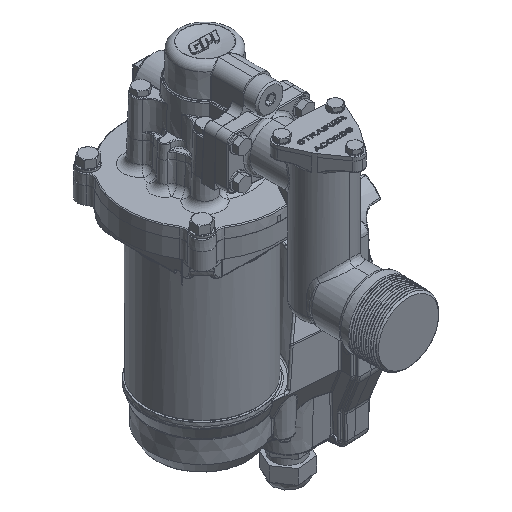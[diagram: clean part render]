
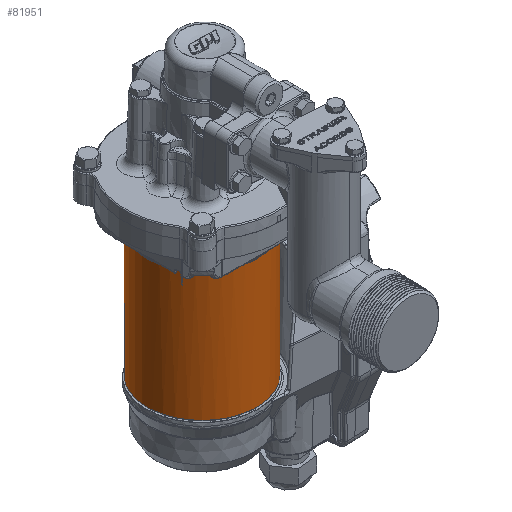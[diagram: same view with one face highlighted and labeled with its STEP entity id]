
A CAD part, isometric view. The second image highlights one B-rep face of the part: STEP entity #81951.
In plain terms, the highlighted cylindrical face has radius 50.8 mm (diameter 101.6 mm), a full revolution.
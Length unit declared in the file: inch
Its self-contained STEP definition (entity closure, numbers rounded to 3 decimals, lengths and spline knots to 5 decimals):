
#4697=CYLINDRICAL_SURFACE('',#87857,2.);
#8989=FACE_OUTER_BOUND('',#13736,.T.);
#13736=EDGE_LOOP('',(#70422,#70423,#70424,#70425,#70426,#70427,#70428,#70429,
#70430,#70431,#70432,#70433,#70434,#70435));
#16517=CIRCLE('',#87858,2.);
#16518=CIRCLE('',#87859,2.);
#16519=CIRCLE('',#87860,2.);
#16520=CIRCLE('',#87861,2.);
#16521=CIRCLE('',#87862,2.);
#16522=CIRCLE('',#87863,2.);
#16523=CIRCLE('',#87864,2.);
#16524=CIRCLE('',#87865,2.);
#24658=LINE('',#171138,#30420);
#24659=LINE('',#171144,#30421);
#24660=LINE('',#171148,#30422);
#24661=LINE('',#171152,#30423);
#24662=LINE('',#171159,#30424);
#30420=VECTOR('',#104083,0.3937);
#30421=VECTOR('',#104088,2.);
#30422=VECTOR('',#104091,0.3937);
#30423=VECTOR('',#104094,0.3937);
#30424=VECTOR('',#104101,0.3937);
#37596=VERTEX_POINT('',#171136);
#37597=VERTEX_POINT('',#171137);
#37598=VERTEX_POINT('',#171139);
#37599=VERTEX_POINT('',#171141);
#37600=VERTEX_POINT('',#171143);
#37601=VERTEX_POINT('',#171145);
#37602=VERTEX_POINT('',#171147);
#37603=VERTEX_POINT('',#171149);
#37604=VERTEX_POINT('',#171151);
#37605=VERTEX_POINT('',#171153);
#37606=VERTEX_POINT('',#171156);
#37607=VERTEX_POINT('',#171158);
#48696=EDGE_CURVE('',#37596,#37597,#24658,.T.);
#48697=EDGE_CURVE('',#37598,#37597,#16517,.T.);
#48698=EDGE_CURVE('',#37599,#37598,#16518,.T.);
#48699=EDGE_CURVE('',#37599,#37600,#24659,.T.);
#48700=EDGE_CURVE('',#37601,#37600,#16519,.T.);
#48701=EDGE_CURVE('',#37601,#37602,#24660,.T.);
#48702=EDGE_CURVE('',#37602,#37603,#16520,.T.);
#48703=EDGE_CURVE('',#37603,#37604,#24661,.T.);
#48704=EDGE_CURVE('',#37605,#37604,#16521,.T.);
#48705=EDGE_CURVE('',#37600,#37605,#16522,.T.);
#48706=EDGE_CURVE('',#37606,#37599,#16523,.T.);
#48707=EDGE_CURVE('',#37606,#37607,#24662,.T.);
#48708=EDGE_CURVE('',#37607,#37596,#16524,.T.);
#70422=ORIENTED_EDGE('',*,*,#48696,.T.);
#70423=ORIENTED_EDGE('',*,*,#48697,.F.);
#70424=ORIENTED_EDGE('',*,*,#48698,.F.);
#70425=ORIENTED_EDGE('',*,*,#48699,.T.);
#70426=ORIENTED_EDGE('',*,*,#48700,.F.);
#70427=ORIENTED_EDGE('',*,*,#48701,.T.);
#70428=ORIENTED_EDGE('',*,*,#48702,.T.);
#70429=ORIENTED_EDGE('',*,*,#48703,.T.);
#70430=ORIENTED_EDGE('',*,*,#48704,.F.);
#70431=ORIENTED_EDGE('',*,*,#48705,.F.);
#70432=ORIENTED_EDGE('',*,*,#48699,.F.);
#70433=ORIENTED_EDGE('',*,*,#48706,.F.);
#70434=ORIENTED_EDGE('',*,*,#48707,.T.);
#70435=ORIENTED_EDGE('',*,*,#48708,.T.);
#81951=ADVANCED_FACE('',(#8989),#4697,.T.);
#87857=AXIS2_PLACEMENT_3D('',#171135,#104081,#104082);
#87858=AXIS2_PLACEMENT_3D('',#171140,#104084,#104085);
#87859=AXIS2_PLACEMENT_3D('',#171142,#104086,#104087);
#87860=AXIS2_PLACEMENT_3D('',#171146,#104089,#104090);
#87861=AXIS2_PLACEMENT_3D('',#171150,#104092,#104093);
#87862=AXIS2_PLACEMENT_3D('',#171154,#104095,#104096);
#87863=AXIS2_PLACEMENT_3D('',#171155,#104097,#104098);
#87864=AXIS2_PLACEMENT_3D('',#171157,#104099,#104100);
#87865=AXIS2_PLACEMENT_3D('',#171160,#104102,#104103);
#104081=DIRECTION('center_axis',(0.,0.,
-1.));
#104082=DIRECTION('ref_axis',(-0.966,0.259,0.));
#104083=DIRECTION('',(0.,0.,-1.));
#104084=DIRECTION('center_axis',(0.,0.,
-1.));
#104085=DIRECTION('ref_axis',(0.966,-0.259,0.));
#104086=DIRECTION('center_axis',(0.,0.,
-1.));
#104087=DIRECTION('ref_axis',(0.966,-0.259,0.));
#104088=DIRECTION('',(0.,0.,1.));
#104089=DIRECTION('center_axis',(0.,0.,
1.));
#104090=DIRECTION('ref_axis',(0.966,-0.259,0.));
#104091=DIRECTION('',(0.,0.,-1.));
#104092=DIRECTION('center_axis',(0.,0.,
-1.));
#104093=DIRECTION('ref_axis',(-0.966,0.259,0.));
#104094=DIRECTION('',(0.,0.,1.));
#104095=DIRECTION('center_axis',(0.,0.,
1.));
#104096=DIRECTION('ref_axis',(0.966,-0.259,0.));
#104097=DIRECTION('center_axis',(0.,0.,
1.));
#104098=DIRECTION('ref_axis',(0.966,-0.259,0.));
#104099=DIRECTION('center_axis',(0.,0.,
-1.));
#104100=DIRECTION('ref_axis',(0.966,-0.259,0.));
#104101=DIRECTION('',(0.,0.,1.));
#104102=DIRECTION('center_axis',(0.,0.,
1.));
#104103=DIRECTION('ref_axis',(-0.966,0.259,0.));
#171135=CARTESIAN_POINT('Origin',(0.,0.,
-3.283));
#171136=CARTESIAN_POINT('',(-1.01001,1.72623,-5.153));
#171137=CARTESIAN_POINT('',(-1.01001,1.72623,-5.623));
#171138=CARTESIAN_POINT('',(-1.01001,1.72623,-3.283));
#171139=CARTESIAN_POINT('',(-1.93185,0.51764,-5.623));
#171140=CARTESIAN_POINT('Origin',(0.,0.,
-5.623));
#171141=CARTESIAN_POINT('',(1.93185,-0.51764,-5.623));
#171142=CARTESIAN_POINT('Origin',(0.,0.,
-5.623));
#171143=CARTESIAN_POINT('',(1.93185,-0.51764,-0.943));
#171144=CARTESIAN_POINT('',(1.93185,-0.51764,-3.283));
#171145=CARTESIAN_POINT('',(-1.72362,-1.01446,-0.943));
#171146=CARTESIAN_POINT('Origin',(0.,0.,
-0.943));
#171147=CARTESIAN_POINT('',(-1.72362,-1.01446,-1.403));
#171148=CARTESIAN_POINT('',(-1.72362,-1.01446,-3.283));
#171149=CARTESIAN_POINT('',(-1.73781,-0.98995,-1.403));
#171150=CARTESIAN_POINT('Origin',(0.,0.,
-1.403));
#171151=CARTESIAN_POINT('',(-1.73781,-0.98995,-0.943));
#171152=CARTESIAN_POINT('',(-1.73781,-0.98995,-3.283));
#171153=CARTESIAN_POINT('',(-1.93185,0.51764,-0.943));
#171154=CARTESIAN_POINT('Origin',(0.,0.,
-0.943));
#171155=CARTESIAN_POINT('Origin',(0.,0.,
-0.943));
#171156=CARTESIAN_POINT('',(-0.98547,1.74036,-5.623));
#171157=CARTESIAN_POINT('Origin',(0.,0.,
-5.623));
#171158=CARTESIAN_POINT('',(-0.98547,1.74036,-5.153));
#171159=CARTESIAN_POINT('',(-0.98547,1.74036,-3.283));
#171160=CARTESIAN_POINT('Origin',(0.,0.,
-5.153));
